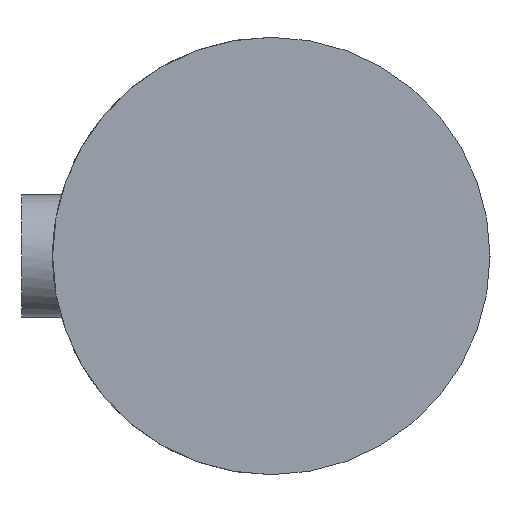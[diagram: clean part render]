
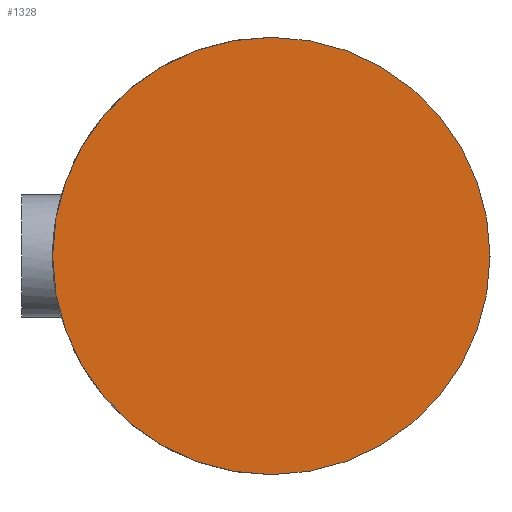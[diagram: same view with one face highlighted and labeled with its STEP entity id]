
A CAD part, left-side view. The second image highlights one B-rep face of the part: STEP entity #1328.
In plain terms, the highlighted planar face has unit normal (-1, 0, 0).
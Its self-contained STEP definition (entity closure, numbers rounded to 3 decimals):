
#61 = CIRCLE ( 'NONE', #147, 25. ) ;
#93 = FACE_OUTER_BOUND ( 'NONE', #485, .T. ) ;
#107 = DIRECTION ( 'NONE',  ( -1., 0., 0. ) ) ;
#147 = AXIS2_PLACEMENT_3D ( 'NONE', #262, #107, #1644 ) ;
#262 = CARTESIAN_POINT ( 'NONE',  ( 0., 0., 0. ) ) ;
#303 = ORIENTED_EDGE ( 'NONE', *, *, #419, .T. ) ;
#331 = EDGE_CURVE ( 'NONE', #332, #476, #61, .T. ) ;
#332 = VERTEX_POINT ( 'NONE', #1267 ) ;
#388 = CARTESIAN_POINT ( 'NONE',  ( 0., 0., 25. ) ) ;
#419 = EDGE_CURVE ( 'NONE', #476, #332, #525, .T. ) ;
#444 = AXIS2_PLACEMENT_3D ( 'NONE', #903, #737, #563 ) ;
#476 = VERTEX_POINT ( 'NONE', #388 ) ;
#485 = EDGE_LOOP ( 'NONE', ( #303, #1583 ) ) ;
#525 = CIRCLE ( 'NONE', #1483, 25. ) ;
#563 = DIRECTION ( 'NONE',  ( 0., 0., -1. ) ) ;
#737 = DIRECTION ( 'NONE',  ( 1., 0., 0. ) ) ;
#903 = CARTESIAN_POINT ( 'NONE',  ( 0., 0., 0. ) ) ;
#977 = DIRECTION ( 'NONE',  ( 0., 0., 1. ) ) ;
#1069 = PLANE ( 'NONE',  #444 ) ;
#1145 = DIRECTION ( 'NONE',  ( -1., 0., 0. ) ) ;
#1267 = CARTESIAN_POINT ( 'NONE',  ( 0., 0., -25. ) ) ;
#1320 = CARTESIAN_POINT ( 'NONE',  ( 0., 0., 0. ) ) ;
#1328 = ADVANCED_FACE ( 'NONE', ( #93 ), #1069, .F. ) ;
#1483 = AXIS2_PLACEMENT_3D ( 'NONE', #1320, #1145, #977 ) ;
#1583 = ORIENTED_EDGE ( 'NONE', *, *, #331, .T. ) ;
#1644 = DIRECTION ( 'NONE',  ( 0., 0., 1. ) ) ;
